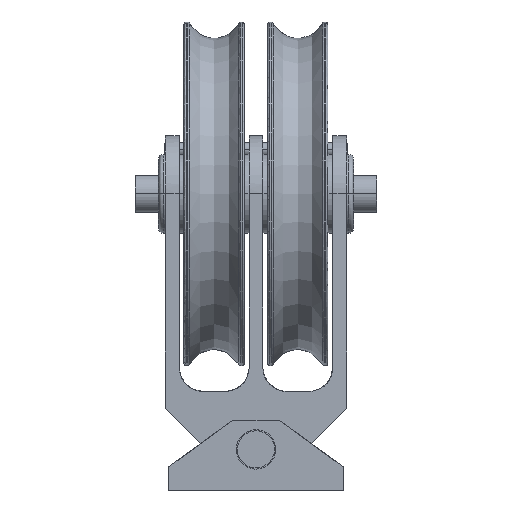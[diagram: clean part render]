
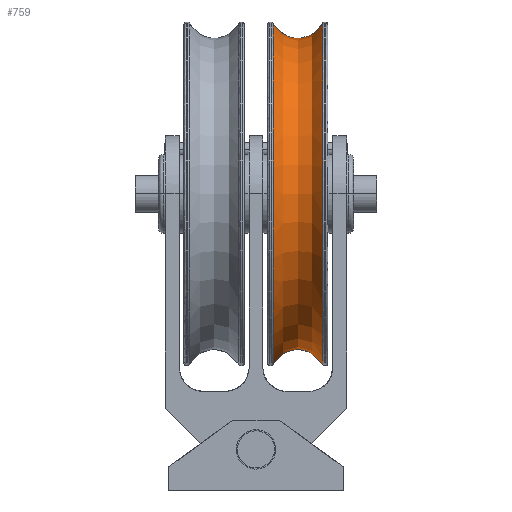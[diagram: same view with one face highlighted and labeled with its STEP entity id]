
A CAD part, left-side view. The second image highlights one B-rep face of the part: STEP entity #759.
In plain terms, the highlighted free-form (B-spline) face has degree [2, 2] with [5, 5] control points.
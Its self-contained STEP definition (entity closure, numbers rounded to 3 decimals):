
#759=ADVANCED_FACE($,(#1317),#6896,.T.);
#1317=FACE_OUTER_BOUND($,#1957,.T.);
#1957=EDGE_LOOP($,(#4087,#4088,#4089,#4090));
#4087=ORIENTED_EDGE($,*,*,#5501,.F.);
#4088=ORIENTED_EDGE($,*,*,#5502,.T.);
#4089=ORIENTED_EDGE($,*,*,#5503,.T.);
#4090=ORIENTED_EDGE($,*,*,#5589,.F.);
#5501=EDGE_CURVE($,#6392,#6442,#7526,.T.);
#5502=EDGE_CURVE($,#6392,#6393,#7527,.T.);
#5503=EDGE_CURVE($,#6393,#6443,#7528,.T.);
#5589=EDGE_CURVE($,#6442,#6443,#7582,.T.);
#6392=VERTEX_POINT($,#19867);
#6393=VERTEX_POINT($,#19868);
#6442=VERTEX_POINT($,#19917);
#6443=VERTEX_POINT($,#19918);
#6896=(
BOUNDED_SURFACE()
B_SPLINE_SURFACE(2,2,((#19519,#19520,#19521,#19522,#19523),(#19524,#19525,
#19526,#19527,#19528),(#19529,#19530,#19531,#19532,#19533),(#19534,#19535,
#19536,#19537,#19538),(#19539,#19540,#19541,#19542,#19543)),.UNSPECIFIED.,
.F.,.F.,.F.)
B_SPLINE_SURFACE_WITH_KNOTS((3,2,3),(3,2,3),(3.142,4.712,
6.283),(43.456,56.549,69.641),.UNSPECIFIED.)
GEOMETRIC_REPRESENTATION_ITEM()
RATIONAL_B_SPLINE_SURFACE(((1.,0.855,1.,0.855,1.),
(0.707,0.604,0.707,0.604,
0.707),(1.,0.855,1.,0.855,1.),(0.707,
0.604,0.707,0.604,0.707),
(1.,0.855,1.,0.855,1.)))
REPRESENTATION_ITEM($)
SURFACE()
);
#7526=(
BOUNDED_CURVE()
B_SPLINE_CURVE(2,(#18495,#18496,#18497,#18498,#18499),.UNSPECIFIED.,.F.,
.F.)
B_SPLINE_CURVE_WITH_KNOTS((3,2,3),(-6.283,-4.712,-3.142),
.UNSPECIFIED.)
CURVE()
GEOMETRIC_REPRESENTATION_ITEM()
RATIONAL_B_SPLINE_CURVE((1.,0.707,1.,0.707,1.))
REPRESENTATION_ITEM($)
);
#7527=(
BOUNDED_CURVE()
B_SPLINE_CURVE(2,(#18500,#18501,#18502,#18503,#18504),.UNSPECIFIED.,.F.,
.F.)
B_SPLINE_CURVE_WITH_KNOTS((3,2,3),(43.456,56.549,69.641),
.UNSPECIFIED.)
CURVE()
GEOMETRIC_REPRESENTATION_ITEM()
RATIONAL_B_SPLINE_CURVE((1.,0.855,1.,0.855,1.))
REPRESENTATION_ITEM($)
);
#7528=(
BOUNDED_CURVE()
B_SPLINE_CURVE(2,(#18505,#18506,#18507,#18508,#18509),.UNSPECIFIED.,.F.,
.F.)
B_SPLINE_CURVE_WITH_KNOTS((3,2,3),(-6.283,-4.712,-3.142),
.UNSPECIFIED.)
CURVE()
GEOMETRIC_REPRESENTATION_ITEM()
RATIONAL_B_SPLINE_CURVE((1.,0.707,1.,0.707,1.))
REPRESENTATION_ITEM($)
);
#7582=(
BOUNDED_CURVE()
B_SPLINE_CURVE(2,(#18819,#18820,#18821,#18822,#18823),.UNSPECIFIED.,.F.,
.F.)
B_SPLINE_CURVE_WITH_KNOTS((3,2,3),(43.456,56.549,69.641),
.UNSPECIFIED.)
CURVE()
GEOMETRIC_REPRESENTATION_ITEM()
RATIONAL_B_SPLINE_CURVE((1.,0.855,1.,0.855,1.))
REPRESENTATION_ITEM($)
);
#18495=CARTESIAN_POINT($,(-17.165,128.557,121.569));
#18496=CARTESIAN_POINT($,(-90.627,128.557,121.569));
#18497=CARTESIAN_POINT($,(-90.627,128.557,48.108));
#18498=CARTESIAN_POINT($,(-90.627,128.557,-25.354));
#18499=CARTESIAN_POINT($,(-17.165,128.557,-25.354));
#18500=CARTESIAN_POINT($,(-17.165,128.557,121.569));
#18501=CARTESIAN_POINT($,(-17.165,131.919,115.108));
#18502=CARTESIAN_POINT($,(-17.165,139.203,115.108));
#18503=CARTESIAN_POINT($,(-17.165,146.487,115.108));
#18504=CARTESIAN_POINT($,(-17.165,149.848,121.569));
#18505=CARTESIAN_POINT($,(-17.165,149.848,121.569));
#18506=CARTESIAN_POINT($,(-90.627,149.848,121.569));
#18507=CARTESIAN_POINT($,(-90.627,149.848,48.108));
#18508=CARTESIAN_POINT($,(-90.627,149.848,-25.354));
#18509=CARTESIAN_POINT($,(-17.165,149.848,-25.354));
#18819=CARTESIAN_POINT($,(-17.165,128.557,-25.354));
#18820=CARTESIAN_POINT($,(-17.165,131.919,-18.892));
#18821=CARTESIAN_POINT($,(-17.165,139.203,-18.892));
#18822=CARTESIAN_POINT($,(-17.165,146.487,-18.892));
#18823=CARTESIAN_POINT($,(-17.165,149.848,-25.354));
#19519=CARTESIAN_POINT($,(-17.165,128.557,-25.354));
#19520=CARTESIAN_POINT($,(-17.165,131.919,-18.892));
#19521=CARTESIAN_POINT($,(-17.165,139.203,-18.892));
#19522=CARTESIAN_POINT($,(-17.165,146.487,-18.892));
#19523=CARTESIAN_POINT($,(-17.165,149.848,-25.354));
#19524=CARTESIAN_POINT($,(-90.627,128.557,-25.354));
#19525=CARTESIAN_POINT($,(-84.165,131.919,-18.892));
#19526=CARTESIAN_POINT($,(-84.165,139.203,-18.892));
#19527=CARTESIAN_POINT($,(-84.165,146.487,-18.892));
#19528=CARTESIAN_POINT($,(-90.627,149.848,-25.354));
#19529=CARTESIAN_POINT($,(-90.627,128.557,48.108));
#19530=CARTESIAN_POINT($,(-84.165,131.919,48.108));
#19531=CARTESIAN_POINT($,(-84.165,139.203,48.108));
#19532=CARTESIAN_POINT($,(-84.165,146.487,48.108));
#19533=CARTESIAN_POINT($,(-90.627,149.848,48.108));
#19534=CARTESIAN_POINT($,(-90.627,128.557,121.569));
#19535=CARTESIAN_POINT($,(-84.165,131.919,115.108));
#19536=CARTESIAN_POINT($,(-84.165,139.203,115.108));
#19537=CARTESIAN_POINT($,(-84.165,146.487,115.108));
#19538=CARTESIAN_POINT($,(-90.627,149.848,121.569));
#19539=CARTESIAN_POINT($,(-17.165,128.557,121.569));
#19540=CARTESIAN_POINT($,(-17.165,131.919,115.108));
#19541=CARTESIAN_POINT($,(-17.165,139.203,115.108));
#19542=CARTESIAN_POINT($,(-17.165,146.487,115.108));
#19543=CARTESIAN_POINT($,(-17.165,149.848,121.569));
#19867=CARTESIAN_POINT($,(-17.165,128.557,121.569));
#19868=CARTESIAN_POINT($,(-17.165,149.848,121.569));
#19917=CARTESIAN_POINT($,(-17.165,128.557,-25.354));
#19918=CARTESIAN_POINT($,(-17.165,149.848,-25.354));
